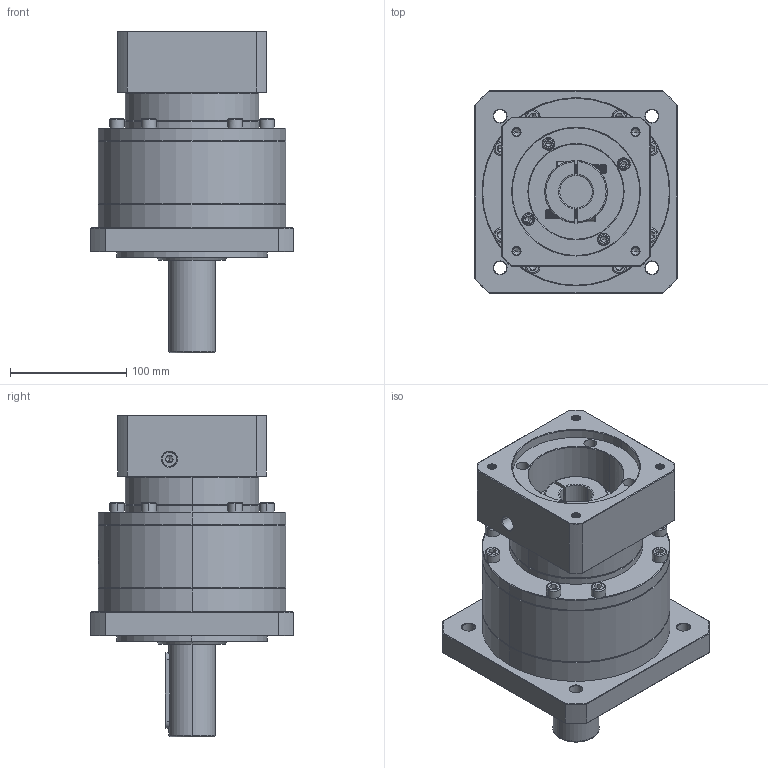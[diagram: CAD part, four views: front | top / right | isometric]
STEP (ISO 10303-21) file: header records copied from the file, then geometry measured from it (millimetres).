
FILE_DESCRIPTION (( 'STEP AP214' ), '1' );
FILE_NAME ('ZF160A-D40-L1-P2-28-110-145-M8.step', '2023-09-03T06:57:16', ( '' ), ( '' ), 'SwSTEP 2.0', 'SolidWorks 2016', '' );
FILE_SCHEMA (( 'AUTOMOTIVE_DESIGN' ));
Length unit declared in the file: millimetre
Products named in the file (1): ZF160A-D40-L1-P2-28-110-145-M8
Bounding box: 175 x 175 x 277.3 mm (x, y, z)
Volume: 3403045.8 mm3; surface area: 310364.8 mm2
Topology: 7 solids, 7 shells, 2425 faces, 6415 edges, 4110 vertices
Faces by surface type: plane 1120, cylinder 487, bspline 405, cone 355, torus 58
Entity records: 131956 total; most frequent: CARTESIAN_POINT 50392, ORIENTED_EDGE 12722, DIRECTION 9680, EDGE_CURVE 6361, VERTEX_POINT 4110, VECTOR 3372, LINE 3372, AXIS2_PLACEMENT_3D 3154
